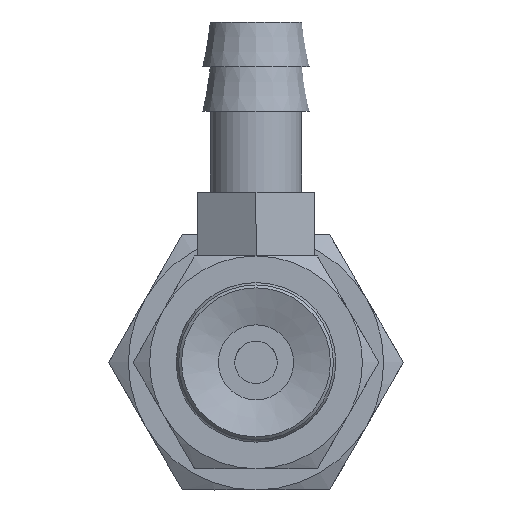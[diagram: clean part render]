
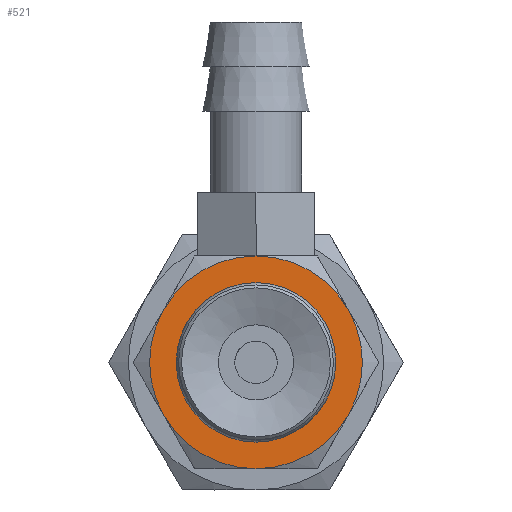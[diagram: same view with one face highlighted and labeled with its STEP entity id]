
A CAD part, front view. The second image highlights one B-rep face of the part: STEP entity #521.
In plain terms, the highlighted planar face has unit normal (0, -1, 0).
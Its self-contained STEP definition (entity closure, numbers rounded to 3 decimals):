
#521=ADVANCED_FACE('',(#749,#750),#751,.T.);
#749=FACE_BOUND('',#1105,.T.);
#750=FACE_OUTER_BOUND('',#1106,.T.);
#751=PLANE('',#1107);
#1105=EDGE_LOOP('',(#1771));
#1106=EDGE_LOOP('',(#1772,#1773,#1774,#1775,#1776,#1777));
#1107=AXIS2_PLACEMENT_3D('',#1778,#1779,#1780);
#1771=ORIENTED_EDGE('',*,*,#2372,.F.);
#1772=ORIENTED_EDGE('',*,*,#2373,.T.);
#1773=ORIENTED_EDGE('',*,*,#2374,.T.);
#1774=ORIENTED_EDGE('',*,*,#2315,.T.);
#1775=ORIENTED_EDGE('',*,*,#2371,.T.);
#1776=ORIENTED_EDGE('',*,*,#2317,.T.);
#1777=ORIENTED_EDGE('',*,*,#2331,.T.);
#1778=CARTESIAN_POINT('',(2.0,0.,0.0));
#1779=DIRECTION('',(0.0,-1.0,0.0));
#1780=DIRECTION('',(0.0,0.0,-1.0));
#2315=EDGE_CURVE('',#2620,#2622,#2624,.T.);
#2317=EDGE_CURVE('',#2628,#2625,#2629,.T.);
#2331=EDGE_CURVE('',#2625,#2646,#2653,.T.);
#2371=EDGE_CURVE('',#2622,#2628,#2719,.T.);
#2372=EDGE_CURVE('',#2720,#2720,#2721,.T.);
#2373=EDGE_CURVE('',#2646,#2632,#2722,.T.);
#2374=EDGE_CURVE('',#2632,#2620,#2723,.T.);
#2620=VERTEX_POINT('',#3324);
#2622=VERTEX_POINT('',#3328);
#2624=CIRCLE('',#3332,5.0);
#2625=VERTEX_POINT('',#3333);
#2628=VERTEX_POINT('',#3338);
#2629=CIRCLE('',#3339,5.0);
#2632=VERTEX_POINT('',#3344);
#2646=VERTEX_POINT('',#3370);
#2653=CIRCLE('',#3384,5.0);
#2719=CIRCLE('',#3544,5.0);
#2720=VERTEX_POINT('',#3545);
#2721=CIRCLE('',#3546,2.0);
#2722=CIRCLE('',#3547,5.0);
#2723=CIRCLE('',#3548,5.0);
#3324=CARTESIAN_POINT('',(4.33,0.,2.5));
#3328=CARTESIAN_POINT('',(0.0,0.,5.0));
#3332=AXIS2_PLACEMENT_3D('',#3870,#3871,#3872);
#3333=CARTESIAN_POINT('',(-4.33,0.,-2.5));
#3338=CARTESIAN_POINT('',(-4.33,0.,2.5));
#3339=AXIS2_PLACEMENT_3D('',#3873,#3874,#3875);
#3344=CARTESIAN_POINT('',(4.33,0.,-2.5));
#3370=CARTESIAN_POINT('',(0.0,0.,-5.0));
#3384=AXIS2_PLACEMENT_3D('',#3882,#3883,#3884);
#3544=AXIS2_PLACEMENT_3D('',#3927,#3928,#3929);
#3545=CARTESIAN_POINT('',(0.0,0.,-2.0));
#3546=AXIS2_PLACEMENT_3D('',#3930,#3931,#3932);
#3547=AXIS2_PLACEMENT_3D('',#3933,#3934,#3935);
#3548=AXIS2_PLACEMENT_3D('',#3936,#3937,#3938);
#3870=CARTESIAN_POINT('',(0.0,0.,0.0));
#3871=DIRECTION('',(0.0,-1.0,0.0));
#3872=DIRECTION('',(0.0,0.0,-1.0));
#3873=CARTESIAN_POINT('',(0.0,0.,0.0));
#3874=DIRECTION('',(0.0,-1.0,0.0));
#3875=DIRECTION('',(0.0,0.0,-1.0));
#3882=CARTESIAN_POINT('',(0.0,0.,0.0));
#3883=DIRECTION('',(0.0,-1.0,0.0));
#3884=DIRECTION('',(0.0,0.0,-1.0));
#3927=CARTESIAN_POINT('',(0.0,0.,0.0));
#3928=DIRECTION('',(0.0,-1.0,0.0));
#3929=DIRECTION('',(0.0,0.0,-1.0));
#3930=CARTESIAN_POINT('',(0.0,0.,0.0));
#3931=DIRECTION('',(0.0,-1.0,0.0));
#3932=DIRECTION('',(0.0,0.0,-1.0));
#3933=CARTESIAN_POINT('',(0.0,0.,0.0));
#3934=DIRECTION('',(0.0,-1.0,0.0));
#3935=DIRECTION('',(0.0,0.0,-1.0));
#3936=CARTESIAN_POINT('',(0.0,0.,0.0));
#3937=DIRECTION('',(0.0,-1.0,0.0));
#3938=DIRECTION('',(0.0,0.0,-1.0));
